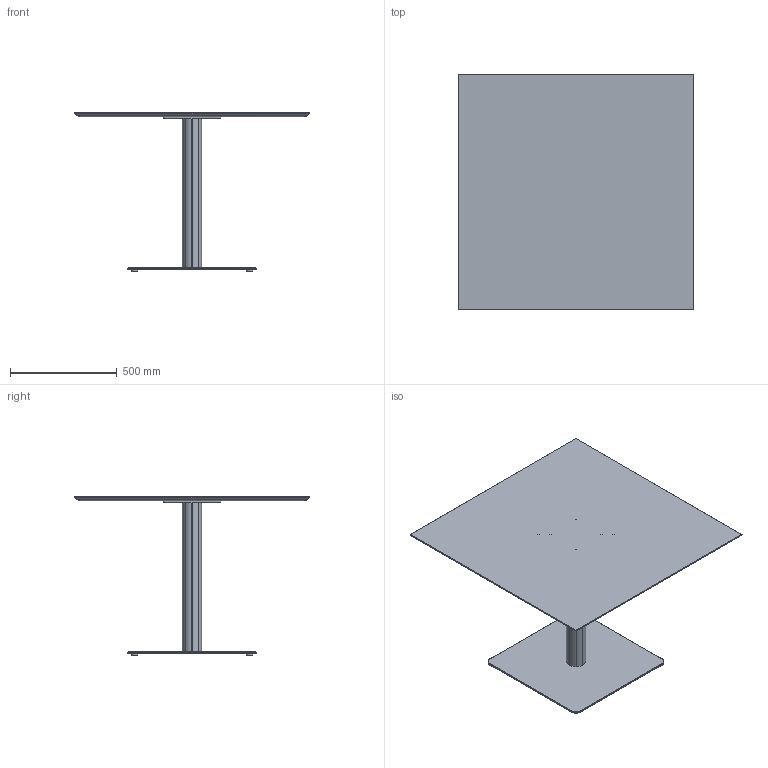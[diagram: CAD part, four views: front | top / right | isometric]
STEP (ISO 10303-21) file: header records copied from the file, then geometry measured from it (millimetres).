
FILE_DESCRIPTION( ('This file contains a STEP AP42 implementation' ,'as created by ZW3D STEP Interface translator.') ,'2;1' );
FILE_NAME( 'Fut - B_Carré - F4 - M3 - 1100 x 1100 x 750.stp' ,'24 911.163910', (''), ('ZWCAD Software Co.'), 'Version 1.0', 'ZW3D to STEP translator', '' );
FILE_SCHEMA(('AUTOMOTIVE_DESIGN { 1 0 10303 214 1 1 1 1 }'));
Length unit declared in the file: millimetre
Products named in the file (15): 0; PIED BISTROT PARAMETRIQUE_; CROIX ACIER 370 V.02_; CRX-X370-02_; SOCLE ACIER L 600x600 V.02_; SCL-R600-02_; PLA-R30A-01_; PLA-R30A-01; COLONNE ACIER Ø48.5 V.02_; TUB-D048-02_; PLA-R48A-01_; COLONNE BOIS PARAMETIQUE_; WUERTH 0276063020 Euro-screw 6.3x2 Verzinkt_; PLATEAU BISTROT PARAMETRIQUE_; insert_m6_13_
Assembly tree (23 placements, depth 3):
  0
  PIED BISTROT PARAMETRIQUE_
    CROIX ACIER 370 V.02_
      CRX-X370-02_
    SOCLE ACIER L 600x600 V.02_
      SCL-R600-02_
      PLA-R30A-01_
      PLA-R30A-01  x3
    COLONNE ACIER Ø48.5 V.02_
      TUB-D048-02_
      PLA-R48A-01_  x2
    COLONNE BOIS PARAMETIQUE_
    WUERTH 0276063020 Euro-screw 6.3x2 Verzinkt_
    PLATEAU BISTROT PARAMETRIQUE_
      insert_m6_13_  x8
Bounding box: 1100 x 1100 x 744 mm (x, y, z)
Volume: 29909042.2 mm3; surface area: 3981720.1 mm2
Topology: 23 solids, 23 shells, 557 faces, 1354 edges, 850 vertices
Faces by surface type: plane 278, bspline 125, cylinder 108, cone 45, torus 1
Full cylindrical faces by diameter (mm): 4.88 x1, 6 x8, 6.3 x1, 8 x45, 12 x2, 14 x2, 30 x4, 44.5 x3, 48.5 x1
Entity records: 13051 total; most frequent: CARTESIAN_POINT 3597, ORIENTED_EDGE 1722, DIRECTION 1592, EDGE_CURVE 861, VERTEX_POINT 552, VECTOR 550, LINE 550, AXIS2_PLACEMENT_3D 521
